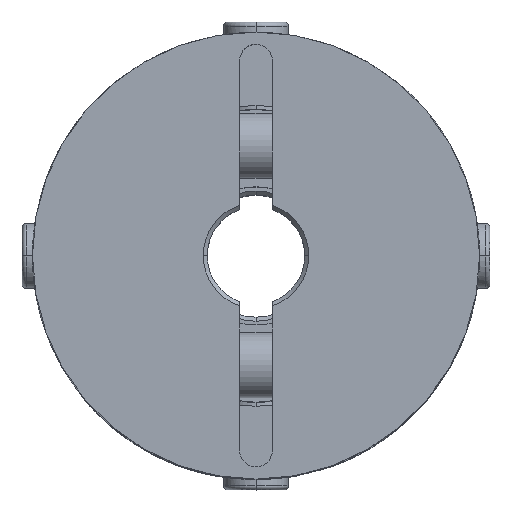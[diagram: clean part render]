
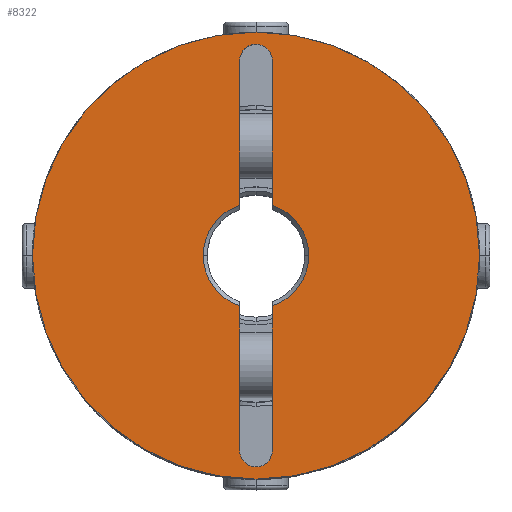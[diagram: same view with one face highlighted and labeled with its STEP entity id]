
A CAD part, top view. The second image highlights one B-rep face of the part: STEP entity #8322.
In plain terms, the highlighted planar face has unit normal (0, 0, 1).
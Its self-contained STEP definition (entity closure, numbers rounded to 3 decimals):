
#632=CARTESIAN_POINT('',(6.5,0.,29.0));
#633=VERTEX_POINT('',#632);
#649=CARTESIAN_POINT('',(2.,-6.185,29.0));
#650=VERTEX_POINT('',#649);
#664=CARTESIAN_POINT('',(0.,0.0,29.0));
#665=DIRECTION('',(0.0,0.0,1.0));
#666=DIRECTION('',(-1.0,0.0,0.0));
#667=AXIS2_PLACEMENT_3D('',#664,#665,#666);
#668=CIRCLE('',#667,6.5);
#669=EDGE_CURVE('',#650,#633,#668,.T.);
#831=CARTESIAN_POINT('',(-6.5,0.,29.0));
#832=VERTEX_POINT('',#831);
#839=CARTESIAN_POINT('',(-2.,-6.185,29.0));
#840=VERTEX_POINT('',#839);
#841=CARTESIAN_POINT('',(0.,0.0,29.0));
#842=DIRECTION('',(0.0,0.0,1.0));
#843=DIRECTION('',(-1.0,0.0,0.0));
#844=AXIS2_PLACEMENT_3D('',#841,#842,#843);
#845=CIRCLE('',#844,6.5);
#846=EDGE_CURVE('',#832,#840,#845,.T.);
#872=CARTESIAN_POINT('',(-1.414,25.414,29.0));
#873=VERTEX_POINT('',#872);
#889=CARTESIAN_POINT('',(2.,24.,29.0));
#890=VERTEX_POINT('',#889);
#897=CARTESIAN_POINT('',(0.,24.,29.0));
#898=DIRECTION('',(0.0,0.0,1.));
#899=DIRECTION('',(0.707,0.707,0.0));
#900=AXIS2_PLACEMENT_3D('',#897,#898,#899);
#901=CIRCLE('',#900,2.);
#902=EDGE_CURVE('',#890,#873,#901,.T.);
#914=CARTESIAN_POINT('',(1.414,-25.414,29.0));
#915=VERTEX_POINT('',#914);
#931=CARTESIAN_POINT('',(-2.,-24.,29.0));
#932=VERTEX_POINT('',#931);
#939=CARTESIAN_POINT('',(0.,-24.,29.0));
#940=DIRECTION('',(0.0,0.0,1.0));
#941=DIRECTION('',(-0.707,-0.707,0.0));
#942=AXIS2_PLACEMENT_3D('',#939,#940,#941);
#943=CIRCLE('',#942,2.0);
#944=EDGE_CURVE('',#932,#915,#943,.T.);
#1499=CARTESIAN_POINT('',(-27.5,0.,29.0));
#1500=VERTEX_POINT('',#1499);
#1507=CARTESIAN_POINT('',(27.5,0.0,29.0));
#1508=VERTEX_POINT('',#1507);
#1509=CARTESIAN_POINT('',(0.,0.0,29.0));
#1510=DIRECTION('',(0.0,0.0,-1.0));
#1511=DIRECTION('',(1.0,0.0,0.0));
#1512=AXIS2_PLACEMENT_3D('',#1509,#1510,#1511);
#1513=CIRCLE('',#1512,27.5);
#1514=EDGE_CURVE('',#1500,#1508,#1513,.T.);
#7523=CARTESIAN_POINT('',(0.,0.0,29.0));
#7524=DIRECTION('',(0.0,0.0,-1.0));
#7525=DIRECTION('',(1.0,0.0,0.0));
#7526=AXIS2_PLACEMENT_3D('',#7523,#7524,#7525);
#7527=CIRCLE('',#7526,27.5);
#7528=EDGE_CURVE('',#1508,#1500,#7527,.T.);
#8081=CARTESIAN_POINT('',(2.,-24.,29.0));
#8082=VERTEX_POINT('',#8081);
#8083=CARTESIAN_POINT('',(0.,-24.,29.0));
#8084=DIRECTION('',(0.0,0.0,1.0));
#8085=DIRECTION('',(-0.707,-0.707,0.0));
#8086=AXIS2_PLACEMENT_3D('',#8083,#8084,#8085);
#8087=CIRCLE('',#8086,2.0);
#8088=EDGE_CURVE('',#915,#8082,#8087,.T.);
#8106=CARTESIAN_POINT('',(2.,-6.185,29.0));
#8107=DIRECTION('',(0.0,-1.0,0.0));
#8108=VECTOR('',#8107,17.815);
#8109=LINE('',#8106,#8108);
#8110=EDGE_CURVE('',#650,#8082,#8109,.T.);
#8129=CARTESIAN_POINT('',(-2.,24.,29.0));
#8130=VERTEX_POINT('',#8129);
#8131=CARTESIAN_POINT('',(0.,24.,29.0));
#8132=DIRECTION('',(0.0,0.0,1.));
#8133=DIRECTION('',(0.707,0.707,0.0));
#8134=AXIS2_PLACEMENT_3D('',#8131,#8132,#8133);
#8135=CIRCLE('',#8134,2.);
#8136=EDGE_CURVE('',#873,#8130,#8135,.T.);
#8154=CARTESIAN_POINT('',(-2.,6.185,29.0));
#8155=VERTEX_POINT('',#8154);
#8156=CARTESIAN_POINT('',(-2.,6.185,29.0));
#8157=DIRECTION('',(0.0,1.0,0.0));
#8158=VECTOR('',#8157,17.815);
#8159=LINE('',#8156,#8158);
#8160=EDGE_CURVE('',#8155,#8130,#8159,.T.);
#8236=CARTESIAN_POINT('',(2.,6.185,29.0));
#8237=VERTEX_POINT('',#8236);
#8251=CARTESIAN_POINT('',(2.,24.,29.0));
#8252=DIRECTION('',(0.0,-1.0,0.0));
#8253=VECTOR('',#8252,17.815);
#8254=LINE('',#8251,#8253);
#8255=EDGE_CURVE('',#890,#8237,#8254,.T.);
#8274=CARTESIAN_POINT('',(-2.,-24.,29.0));
#8275=DIRECTION('',(0.0,1.0,0.0));
#8276=VECTOR('',#8275,17.815);
#8277=LINE('',#8274,#8276);
#8278=EDGE_CURVE('',#932,#840,#8277,.T.);
#8287=CARTESIAN_POINT('',(2.5,0.,29.0));
#8288=DIRECTION('',(0.0,0.0,1.0));
#8289=DIRECTION('',(1.0,0.0,0.0));
#8290=AXIS2_PLACEMENT_3D('',#8287,#8288,#8289);
#8291=PLANE('',#8290);
#8292=ORIENTED_EDGE('',*,*,#7528,.F.);
#8293=ORIENTED_EDGE('',*,*,#1514,.F.);
#8294=EDGE_LOOP('',(#8292,#8293));
#8295=FACE_OUTER_BOUND('',#8294,.T.);
#8296=ORIENTED_EDGE('',*,*,#8110,.T.);
#8297=ORIENTED_EDGE('',*,*,#8088,.F.);
#8298=ORIENTED_EDGE('',*,*,#944,.F.);
#8299=ORIENTED_EDGE('',*,*,#8278,.T.);
#8300=ORIENTED_EDGE('',*,*,#846,.F.);
#8301=CARTESIAN_POINT('',(0.,0.0,29.0));
#8302=DIRECTION('',(0.0,0.0,1.0));
#8303=DIRECTION('',(-1.0,0.0,0.0));
#8304=AXIS2_PLACEMENT_3D('',#8301,#8302,#8303);
#8305=CIRCLE('',#8304,6.5);
#8306=EDGE_CURVE('',#8155,#832,#8305,.T.);
#8307=ORIENTED_EDGE('',*,*,#8306,.F.);
#8308=ORIENTED_EDGE('',*,*,#8160,.T.);
#8309=ORIENTED_EDGE('',*,*,#8136,.F.);
#8310=ORIENTED_EDGE('',*,*,#902,.F.);
#8311=ORIENTED_EDGE('',*,*,#8255,.T.);
#8312=CARTESIAN_POINT('',(0.,0.0,29.0));
#8313=DIRECTION('',(0.0,0.0,1.0));
#8314=DIRECTION('',(-1.0,0.0,0.0));
#8315=AXIS2_PLACEMENT_3D('',#8312,#8313,#8314);
#8316=CIRCLE('',#8315,6.5);
#8317=EDGE_CURVE('',#633,#8237,#8316,.T.);
#8318=ORIENTED_EDGE('',*,*,#8317,.F.);
#8319=ORIENTED_EDGE('',*,*,#669,.F.);
#8320=EDGE_LOOP('',(#8296,#8297,#8298,#8299,#8300,#8307,#8308,#8309,#8310,#8311,#8318,#8319));
#8321=FACE_BOUND('',#8320,.T.);
#8322=ADVANCED_FACE('',(#8295,#8321),#8291,.T.);
